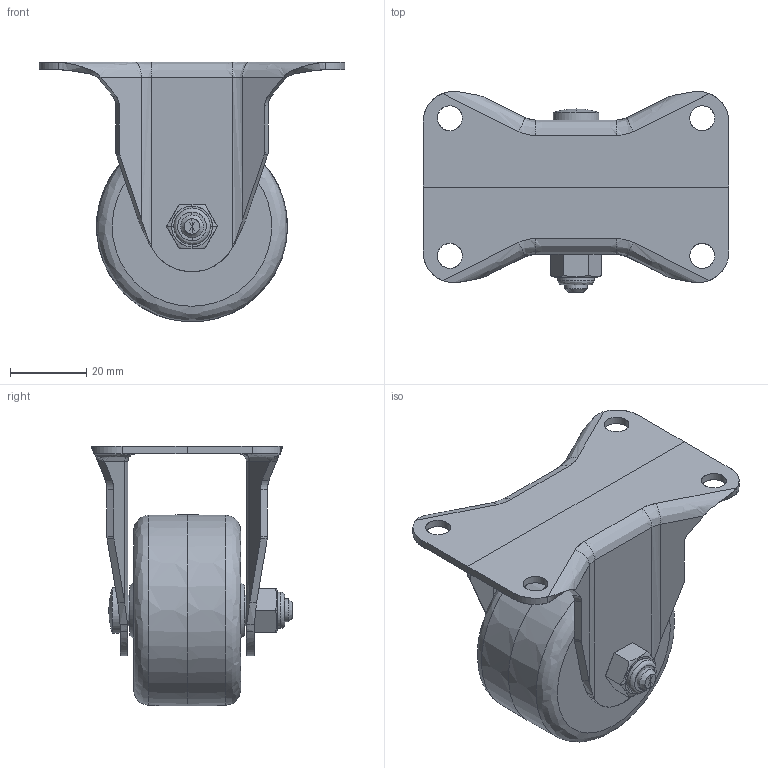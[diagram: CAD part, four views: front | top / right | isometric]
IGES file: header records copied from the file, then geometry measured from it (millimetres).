
Start section: JAMA-IS VERSION  1.0
Global section: file name: C:\CAM-TOOL data\ToolsFile\INOAC車輪\10月\FP50FNWK-All.igs; native system: CAM-TOOL; preprocessor: C3out Version 11.1.1.50212 (2015/02/12); author: NONE; organization: NONE; date: 231025.155925; units: millimetre
Bounding box: 80 x 52.48 x 67.99 mm (x, y, z)
Surface area: 24574 mm2 (no closed solid volume)
Topology: 0 solids, 0 shells, 146 faces, 1671 edges, 1956 vertices
Faces by surface type: bspline 146
